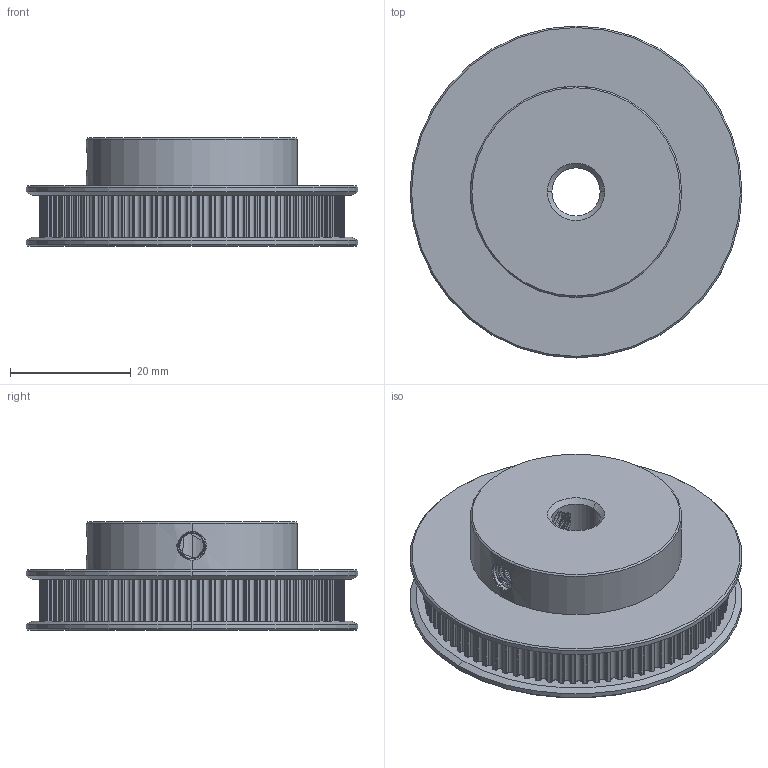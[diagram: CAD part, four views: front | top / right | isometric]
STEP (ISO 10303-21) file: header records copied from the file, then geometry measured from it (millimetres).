
FILE_DESCRIPTION (( 'STEP AP214' ), '1' );
FILE_NAME ('GT2_80T_8mm_Bore_Pulley.STEP', '2023-09-19T00:30:55', ( '' ), ( '' ), 'SwSTEP 2.0', 'SolidWorks 2023', '' );
FILE_SCHEMA (( 'AUTOMOTIVE_DESIGN' ));
Length unit declared in the file: millimetre
Products named in the file (1): GT2_80T_8mm_Bore_Pulley
Bounding box: 55 x 55 x 18 mm (x, y, z)
Volume: 26922.1 mm3; surface area: 9323.3 mm2
Topology: 1 solids, 1 shells, 681 faces, 2015 edges, 1337 vertices
Faces by surface type: cylinder 648, cone 14, bspline 10, plane 9
Entity records: 29984 total; most frequent: CARTESIAN_POINT 11213, DIRECTION 4303, ORIENTED_EDGE 4030, EDGE_CURVE 2015, AXIS2_PLACEMENT_3D 1818, VERTEX_POINT 1337, CIRCLE 1146, EDGE_LOOP 688
